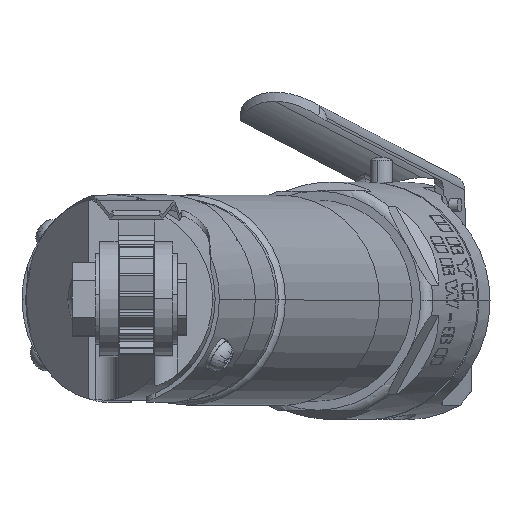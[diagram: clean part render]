
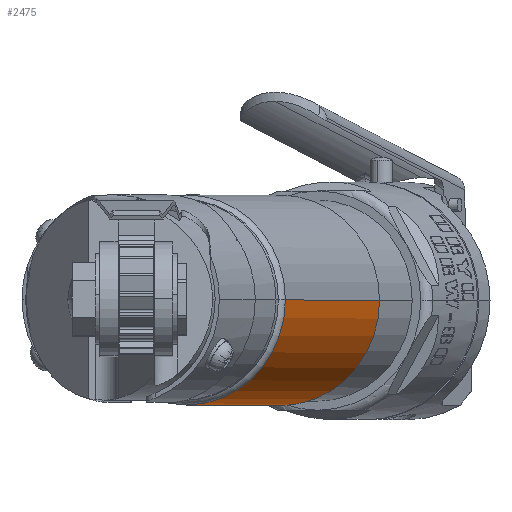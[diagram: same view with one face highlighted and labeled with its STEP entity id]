
A CAD part, top view. The second image highlights one B-rep face of the part: STEP entity #2475.
In plain terms, the highlighted cylindrical face has radius 23 mm (diameter 46 mm), a partial arc.
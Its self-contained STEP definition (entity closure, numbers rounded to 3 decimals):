
#1944 = VERTEX_POINT ( 'NONE', #10946 ) ;
#1945 = VERTEX_POINT ( 'NONE', #10944 ) ;
#1986 = EDGE_CURVE ( 'NONE', #2009, #1945, #11138, .T. ) ;
#2009 = VERTEX_POINT ( 'NONE', #11155 ) ;
#2010 = VERTEX_POINT ( 'NONE', #11152 ) ;
#2012 = EDGE_CURVE ( 'NONE', #2010, #1944, #11146, .T. ) ;
#2475 = ADVANCED_FACE ( 'NONE', ( #13923 ), #13916, .T. ) ;
#2476 = EDGE_LOOP ( 'NONE', ( #2477, #2478, #2480, #2481 ) ) ;
#2477 = ORIENTED_EDGE ( 'NONE', *, *, #2012, .F. ) ;
#2478 = ORIENTED_EDGE ( 'NONE', *, *, #2479, .T. ) ;
#2479 = EDGE_CURVE ( 'NONE', #2010, #2009, #13906, .T. ) ;
#2480 = ORIENTED_EDGE ( 'NONE', *, *, #1986, .T. ) ;
#2481 = ORIENTED_EDGE ( 'NONE', *, *, #2533, .T. ) ;
#2533 = EDGE_CURVE ( 'NONE', #1945, #1944, #14223, .T. ) ;
#10944 = CARTESIAN_POINT ( 'NONE',  ( 23., 0., -3.232 ) ) ;
#10946 = CARTESIAN_POINT ( 'NONE',  ( -23., 0., -3.232 ) ) ;
#11134 = DIRECTION ( 'NONE',  ( 0., 0., 1. ) ) ;
#11136 = VECTOR ( 'NONE', #11134, 1000. ) ;
#11137 = CARTESIAN_POINT ( 'NONE',  ( 23., 0., 10.925 ) ) ;
#11138 = LINE ( 'NONE', #11137, #11136 ) ;
#11141 = DIRECTION ( 'NONE',  ( 0., 0., 1. ) ) ;
#11143 = VECTOR ( 'NONE', #11141, 1000. ) ;
#11144 = CARTESIAN_POINT ( 'NONE',  ( -23., 0., 10.925 ) ) ;
#11146 = LINE ( 'NONE', #11144, #11143 ) ;
#11152 = CARTESIAN_POINT ( 'NONE',  ( -23., 0., -63.5 ) ) ;
#11155 = CARTESIAN_POINT ( 'NONE',  ( 23., 0., -63.5 ) ) ;
#13901 = DIRECTION ( 'NONE',  ( 1., 0., 0. ) ) ;
#13903 = DIRECTION ( 'NONE',  ( 0., 0., 1. ) ) ;
#13905 = AXIS2_PLACEMENT_3D ( 'NONE', #13917, #13903, #13901 ) ;
#13906 = CIRCLE ( 'NONE', #13905, 23. ) ;
#13910 = DIRECTION ( 'NONE',  ( 1., 0., 0. ) ) ;
#13911 = DIRECTION ( 'NONE',  ( 0., 0., 1. ) ) ;
#13913 = CARTESIAN_POINT ( 'NONE',  ( 0., 0., 10.925 ) ) ;
#13915 = AXIS2_PLACEMENT_3D ( 'NONE', #13913, #13911, #13910 ) ;
#13916 = CYLINDRICAL_SURFACE ( 'NONE', #13915, 23. ) ;
#13917 = CARTESIAN_POINT ( 'NONE',  ( 0., 0., -63.5 ) ) ;
#13923 = FACE_OUTER_BOUND ( 'NONE', #2476, .T. ) ;
#14215 = DIRECTION ( 'NONE',  ( 1., 0., 0. ) ) ;
#14217 = DIRECTION ( 'NONE',  ( 0., 0., -1. ) ) ;
#14218 = CARTESIAN_POINT ( 'NONE',  ( 0., 0., -3.232 ) ) ;
#14220 = AXIS2_PLACEMENT_3D ( 'NONE', #14218, #14217, #14215 ) ;
#14223 = CIRCLE ( 'NONE', #14220, 23. ) ;
